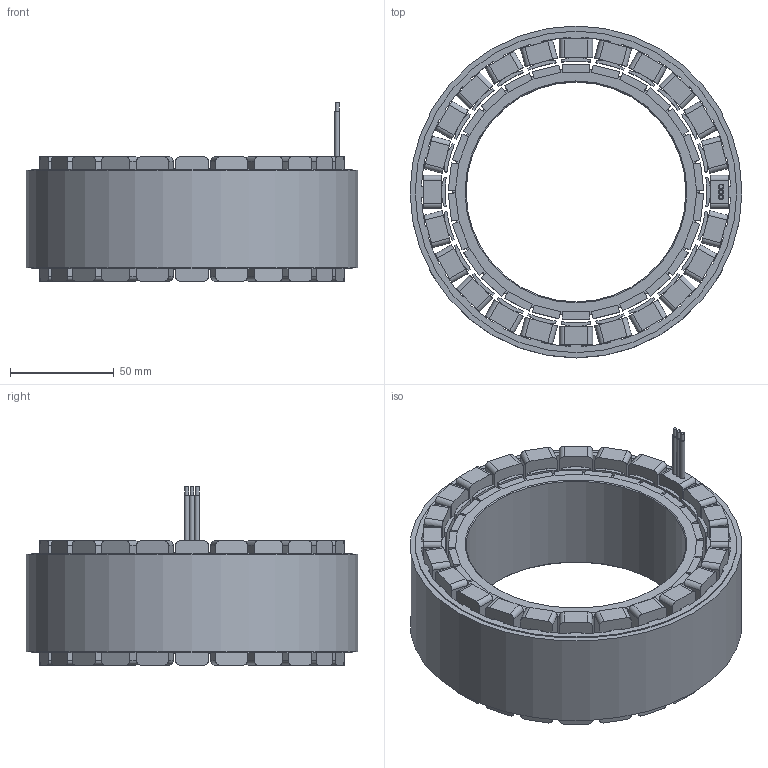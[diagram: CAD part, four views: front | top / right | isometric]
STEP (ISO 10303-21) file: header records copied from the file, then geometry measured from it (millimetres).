
FILE_DESCRIPTION (( 'STEP AP214' ), '1' );
FILE_NAME ('16060萇儂.STEP', '2024-08-29T01:56:25', ( '' ), ( '' ), 'SwSTEP 2.0', 'SolidWorks 2023', '' );
FILE_SCHEMA (( 'AUTOMOTIVE_DESIGN' ));
Length unit declared in the file: millimetre
Products named in the file (1): 16060电机
Bounding box: 160 x 160 x 86 mm (x, y, z)
Surface area: 188131.4 mm2 (no closed solid volume)
Topology: 0 solids, 55 shells, 520 faces, 2098 edges, 1594 vertices
Faces by surface type: plane 364, cylinder 154, cone 2
Full cylindrical faces by diameter (mm): 1.8 x3, 2.5 x3, 106 x1, 155 x2, 160 x1
Entity records: 21709 total; most frequent: CARTESIAN_POINT 4193, DIRECTION 3678, ORIENTED_EDGE 3193, EDGE_CURVE 2082, VERTEX_POINT 1590, VECTOR 1528, LINE 1528, AXIS2_PLACEMENT_3D 1075
